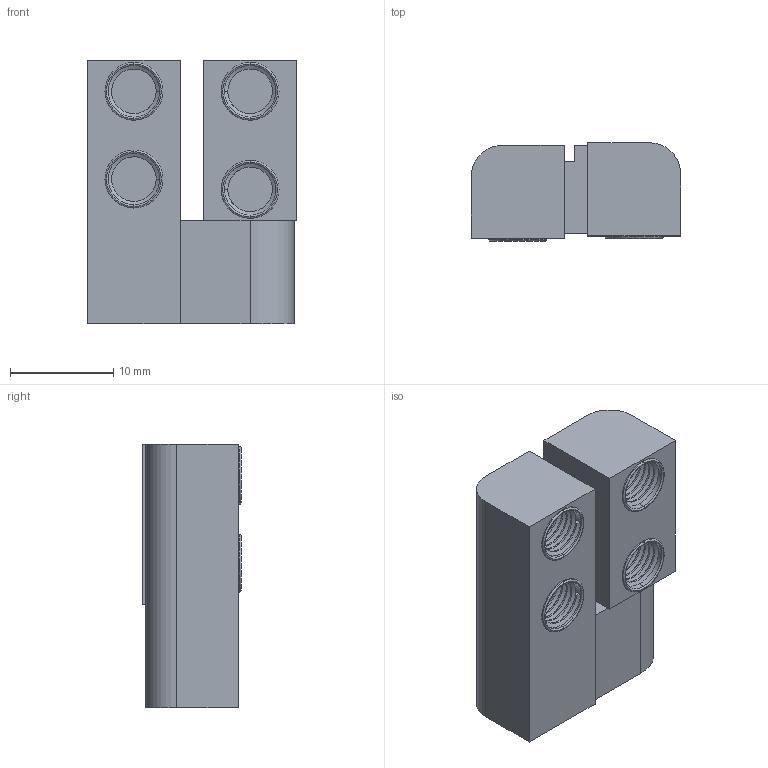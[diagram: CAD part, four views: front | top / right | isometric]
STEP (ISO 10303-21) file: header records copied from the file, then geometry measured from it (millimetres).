
FILE_DESCRIPTION (( 'STEP AP214' ), '1' );
FILE_NAME ('LC203.STEP', '2023-07-01T07:16:54', ( '' ), ( '' ), 'SwSTEP 2.0', 'SolidWorks 2019', '' );
FILE_SCHEMA (( 'AUTOMOTIVE_DESIGN' ));
Length unit declared in the file: millimetre
Products named in the file (3): 錨璃2; LC203; 錨璃1
Assembly tree (2 placements, depth 2):
  LC203
    錨璃1
    錨璃2
Bounding box: 20.25 x 9.5 x 25.5 mm (x, y, z)
Volume: 3572.8 mm3; surface area: 3000 mm2
Topology: 2 solids, 2 shells, 152 faces, 396 edges, 254 vertices
Faces by surface type: cylinder 93, plane 27, torus 20, bspline 12
Entity records: 10626 total; most frequent: CARTESIAN_POINT 5815, ORIENTED_EDGE 792, DIRECTION 574, EDGE_CURVE 396, VERTEX_POINT 254, AXIS2_PLACEMENT_3D 221, EDGE_LOOP 158, ADVANCED_FACE 152
